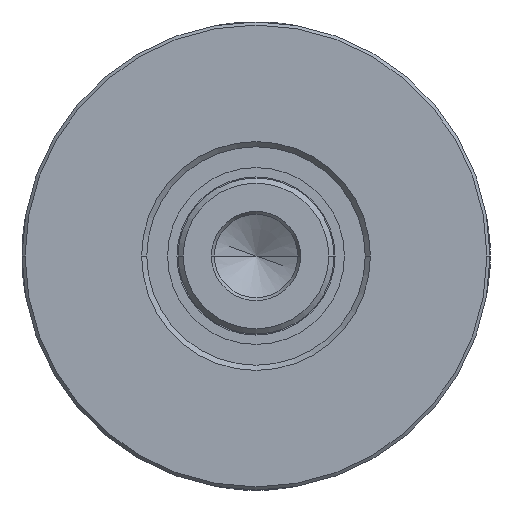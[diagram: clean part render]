
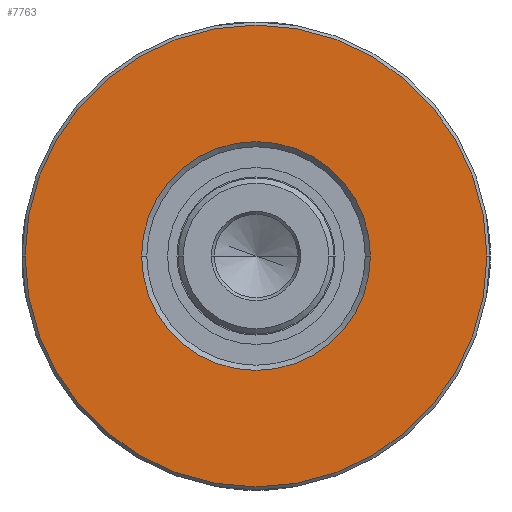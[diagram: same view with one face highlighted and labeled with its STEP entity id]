
A CAD part, left-side view. The second image highlights one B-rep face of the part: STEP entity #7763.
In plain terms, the highlighted planar face has unit normal (-1, 0, 0).
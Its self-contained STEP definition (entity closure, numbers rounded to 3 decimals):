
#7208=CARTESIAN_POINT('',(-3.,0.,0.));
#7209=DIRECTION('',(-1.,0.,0.));
#7210=DIRECTION('',(0.,1.,0.));
#7211=AXIS2_PLACEMENT_3D('',#7208,#7209,#7210);
#7216=CARTESIAN_POINT('',(-3.,0.,0.));
#7217=DIRECTION('',(1.,0.,0.));
#7218=DIRECTION('',(0.,1.,0.));
#7219=AXIS2_PLACEMENT_3D('',#7216,#7217,#7218);
#7224=CARTESIAN_POINT('',(-3.,0.,0.));
#7225=DIRECTION('',(1.,0.,0.));
#7226=DIRECTION('',(0.,1.,0.));
#7227=AXIS2_PLACEMENT_3D('',#7224,#7225,#7226);
#7246=CARTESIAN_POINT('',(-3.,0.,0.));
#7247=DIRECTION('',(-1.,0.,0.));
#7248=DIRECTION('',(0.,1.,0.));
#7249=AXIS2_PLACEMENT_3D('',#7246,#7247,#7248);
#7318=CARTESIAN_POINT('',(-3.,11.,0.));
#7319=VERTEX_POINT('',#7318);
#7320=CARTESIAN_POINT('',(-3.,-11.,0.));
#7321=VERTEX_POINT('',#7320);
#7322=CARTESIAN_POINT('',(-3.,22.2,0.));
#7323=VERTEX_POINT('',#7322);
#7324=CARTESIAN_POINT('',(-3.,-22.2,0.));
#7325=VERTEX_POINT('',#7324);
#7748=CARTESIAN_POINT('',(-3.,0.,0.));
#7749=DIRECTION('',(1.,0.,0.));
#7750=DIRECTION('',(0.,-1.,0.));
#7751=AXIS2_PLACEMENT_3D('',#7748,#7749,#7750);
#7752=PLANE('',#7751);
#7753=ORIENTED_EDGE('',*,*,#7727,.F.);
#7754=ORIENTED_EDGE('',*,*,#7743,.T.);
#7755=EDGE_LOOP('',(#7753,#7754));
#7756=FACE_OUTER_BOUND('',#7755,.F.);
#7758=ORIENTED_EDGE('',*,*,#7757,.F.);
#7760=ORIENTED_EDGE('',*,*,#7759,.T.);
#7761=EDGE_LOOP('',(#7758,#7760));
#7762=FACE_BOUND('',#7761,.F.);
#7212=CIRCLE('',#7211,22.2);
#7220=CIRCLE('',#7219,22.2);
#7228=CIRCLE('',#7227,11.);
#7250=CIRCLE('',#7249,11.);
#7727=EDGE_CURVE('',#7323,#7325,#7212,.T.);
#7743=EDGE_CURVE('',#7323,#7325,#7220,.T.);
#7757=EDGE_CURVE('',#7319,#7321,#7228,.T.);
#7759=EDGE_CURVE('',#7319,#7321,#7250,.T.);
#7763=ADVANCED_FACE('',(#7756,#7762),#7752,.F.);
